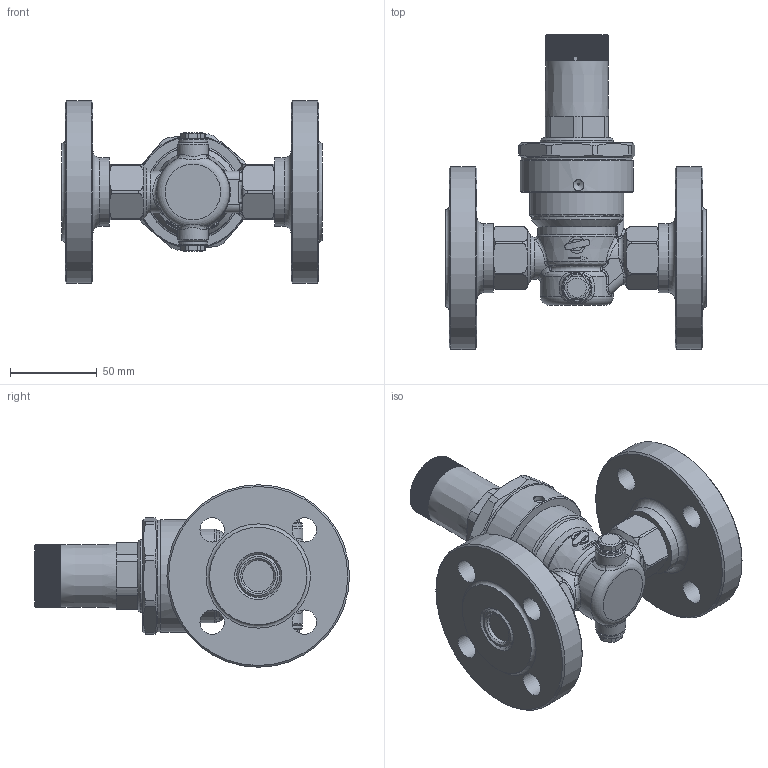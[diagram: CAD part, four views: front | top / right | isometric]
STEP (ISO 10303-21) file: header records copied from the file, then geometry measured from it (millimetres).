
FILE_DESCRIPTION(/* description */ (''),/* implementation_level */ '2;1');
FILE_NAME(/* name */ 'U:/AirCom-Produktdokumentation/Druckregler/RWF/Zeichnungen/CAD-Aircom/3D/B-RWF-06A.step',/* time_stamp */ '2022-07-04T16:18:41+02:00',/* author */ (''),/* organization */ (''),/* preprocessor_version */ 'ST-DEVELOPER v19',/* originating_system */ 'Autodesk Translation Framework v11.7.0.108',/* authorisation */ '');
FILE_SCHEMA (('AUTOMOTIVE_DESIGN { 1 0 10303 214 3 1 1 }'));
Products named in the file (1): 055003_step
Bounding box: 150 x 181.2 x 105 mm (x, y, z)
Volume: 606617.5 mm3; surface area: 86924.8 mm2
Topology: 1 solids, 3 shells, 1427 faces, 3617 edges, 2233 vertices
Faces by surface type: plane 870, cylinder 315, bspline 132, cone 80, torus 28, sphere 2
Full cylindrical faces by diameter (mm): 6.1 x3, 12 x1, 13 x1, 14 x8, 16.5 x2, 17.5 x2, 18 x2, 28 x1, 28.2 x1, 39.5 x2, 42 x1, 42.2 x1, 54 x1, 64 x1, 65 x1, 105 x2
Entity records: 50237 total; most frequent: CARTESIAN_POINT 17268, ORIENTED_EDGE 7218, DIRECTION 6492, EDGE_CURVE 3609, AXIS2_PLACEMENT_3D 2477, VERTEX_POINT 2233, LINE 1538, VECTOR 1538
